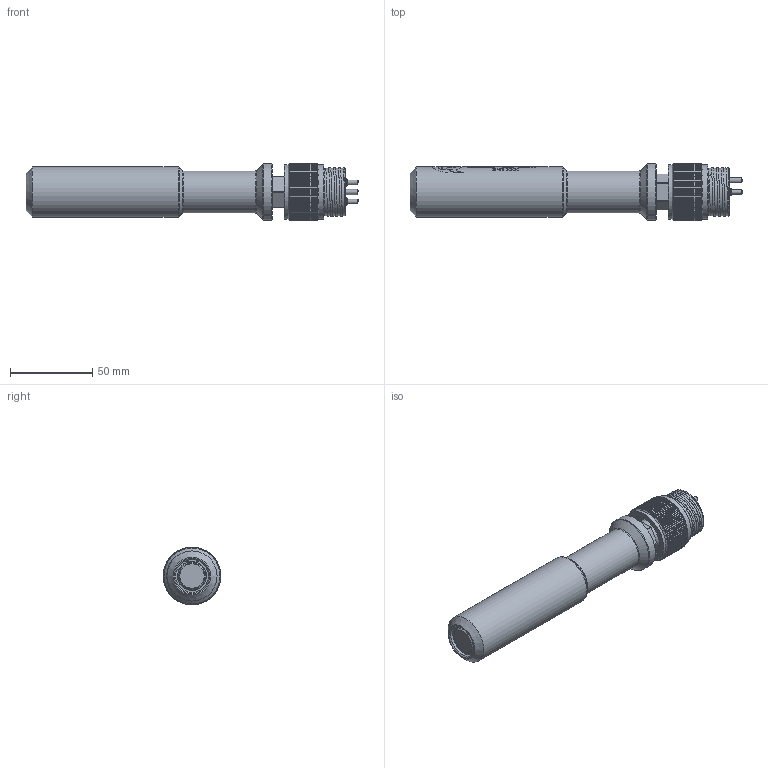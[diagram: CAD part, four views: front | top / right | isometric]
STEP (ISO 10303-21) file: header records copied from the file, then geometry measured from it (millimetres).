
FILE_DESCRIPTION (( 'STEP AP214' ), '1' );
FILE_NAME ('SL100-BH2-0A_NO_BRKT_20190319a.STEP', '2019-03-19T15:14:42', ( '' ), ( '' ), 'SwSTEP 2.0', 'SolidWorks 2018', '' );
FILE_SCHEMA (( 'AUTOMOTIVE_DESIGN' ));
Length unit declared in the file: millimetre
Products named in the file (1): SL100-BH2-0A_NO_BRKT_20190319a
Bounding box: 201.68 x 34.92 x 34.92 mm (x, y, z)
Surface area: 26457.5 mm2 (no closed solid volume)
Topology: 0 solids, 66 shells, 529 faces, 3291 edges, 2812 vertices
Faces by surface type: plane 248, cylinder 215, bspline 41, cone 14, torus 11
Full cylindrical faces by diameter (mm): 2.794 x2, 3.175 x1, 4.572 x2, 16.002 x1, 17.323 x1, 18.288 x1, 20.066 x1, 20.828 x1, 25.4 x1, 26.035 x2, 28.677 x1, 30.48 x1, 33.02 x2, 34.29 x1
Entity records: 65947 total; most frequent: CARTESIAN_POINT 46072, ORIENTED_EDGE 4366, EDGE_CURVE 3248, VERTEX_POINT 2810, DIRECTION 2393, B_SPLINE_CURVE_WITH_KNOTS 2031, AXIS2_PLACEMENT_3D 939, EDGE_LOOP 674
